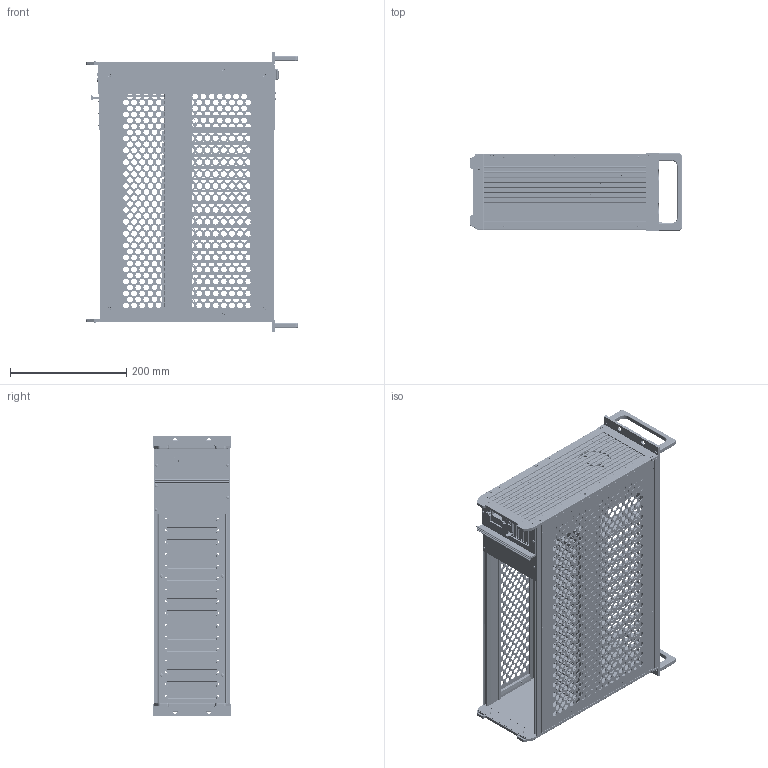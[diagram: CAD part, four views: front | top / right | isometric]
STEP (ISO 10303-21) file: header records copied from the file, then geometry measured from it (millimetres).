
FILE_DESCRIPTION((''),'2;1');
FILE_NAME('1_ER003_E_STEP_1_ASM','2018-10-25T',('jeblick'),(''),'CREO PARAMETRIC BY PTC INC, 2017170','CREO PARAMETRIC BY PTC INC, 2017170','');
FILE_SCHEMA(('CONFIG_CONTROL_DESIGN'));
Products named in the file (4): 1_ER003_E_STEP_SW0001; 1_BL05_STEP_SW0001; 3_9241_0324_STEP_SW0001; 1_ER003_E_STEP_1_ASM
Assembly tree (3 placements, depth 2):
  1_ER003_E_STEP_1_ASM
    1_ER003_E_STEP_SW0001
    1_BL05_STEP_SW0001
    3_9241_0324_STEP_SW0001
Bounding box: 364.15 x 132.5 x 481.4 mm (x, y, z)
Volume: 3609146.8 mm3; surface area: 1307291.1 mm2
Topology: 3 solids, 3 shells, 11213 faces, 30509 edges, 19824 vertices
Faces by surface type: bspline 11213
Entity records: 509551 total; most frequent: CARTESIAN_POINT 173958, ORIENTED_EDGE 60946, DIRECTION 41327, EDGE_CURVE 30473, VERTEX_POINT 19824, VECTOR 19395, LINE 19395, EDGE_LOOP 14317
